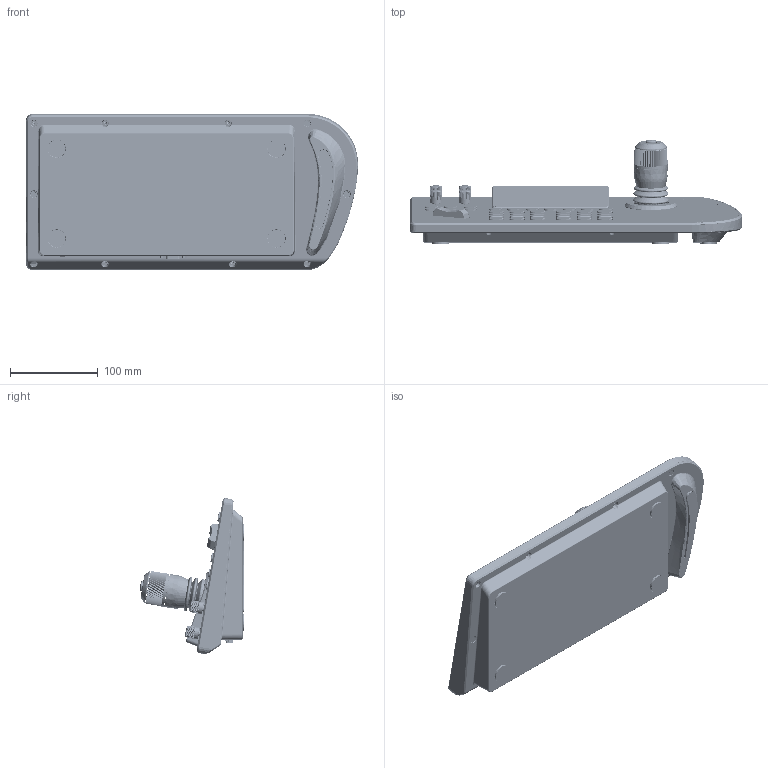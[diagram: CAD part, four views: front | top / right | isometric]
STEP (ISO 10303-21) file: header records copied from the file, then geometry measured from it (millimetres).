
FILE_DESCRIPTION(/* description */ ('','CAx-IF Rec.Pracs.---Representation and Presentation of Product Manufacturing Information (PMI)---4.0---2014-10-13'),/* implementation_level */ '2;1');
FILE_NAME(/* name */ 'BirdDog_KBD_3D-file.step',/* time_stamp */ '2024-12-12T12:36:01+11:00',/* author */ (''),/* organization */ (''),/* preprocessor_version */ 'ST-DEVELOPER v20',/* originating_system */ 'Autodesk Translation Framework v13.20.0.188',/* authorisation */ '');
FILE_SCHEMA (('AP242_MANAGED_MODEL_BASED_3D_ENGINEERING_MIM_LF { 1 0 10303 442 1 1 4 }'));
Products named in the file (1): 000-BD_K-BOARD-3DWGT
Bounding box: 377.45 x 118.92 x 177.45 mm (x, y, z)
Volume: 617444 mm3; surface area: 576317.5 mm2
Topology: 34 solids, 34 shells, 8403 faces, 20868 edges, 12882 vertices
Faces by surface type: plane 3979, cylinder 1753, torus 980, cone 960, bspline 666, sphere 65
Full cylindrical faces by diameter (mm): 1 x16, 1.6 x10, 2.35 x17, 2.5 x37, 2.8 x1, 3 x4, 3.5 x4, 3.86 x4, 3.9 x1, 4 x4, 4.2 x1, 4.5 x26, 4.6 x2, 5 x2, 5.5 x4, 5.6 x4, 6 x6, 6.8 x4, 7 x1, 8 x5, 11 x4, 12.264 x1, 18 x4, 20 x4, 38.9 x1, 40 x2, 60 x1
Entity records: 365460 total; most frequent: CARTESIAN_POINT 168006, ORIENTED_EDGE 41648, DIRECTION 41213, EDGE_CURVE 20824, AXIS2_PLACEMENT_3D 15379, VERTEX_POINT 12882, LINE 10455, VECTOR 10455
